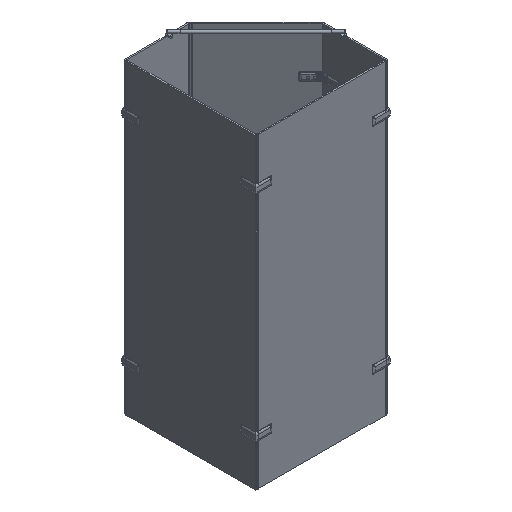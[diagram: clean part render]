
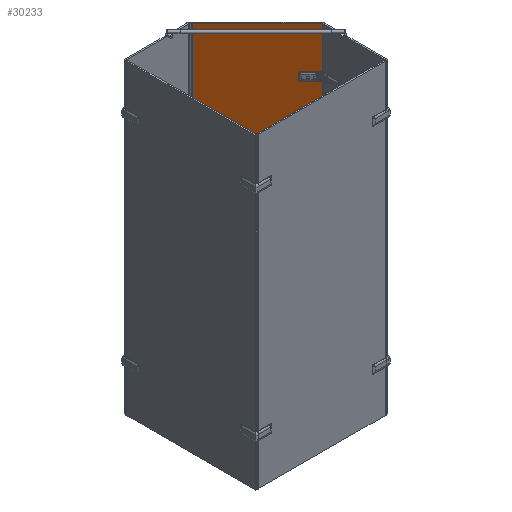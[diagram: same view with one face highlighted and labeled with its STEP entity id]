
A CAD part, isometric view. The second image highlights one B-rep face of the part: STEP entity #30233.
In plain terms, the highlighted planar face has unit normal (-0.707, -0.707, 0).
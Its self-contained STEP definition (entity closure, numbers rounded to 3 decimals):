
#1471=LINE($,#58121,#4029);
#2200=LINE($,#61485,#4758);
#2692=LINE($,#68003,#5250);
#2809=LINE($,#68351,#5367);
#2840=LINE($,#68446,#5398);
#3190=LINE($,#69565,#5748);
#3213=LINE($,#69809,#5771);
#3224=LINE($,#69856,#5782);
#3225=LINE($,#69861,#5783);
#3226=LINE($,#69864,#5784);
#3227=LINE($,#69868,#5785);
#3228=LINE($,#69871,#5786);
#4029=VECTOR($,#35059,1362.);
#4758=VECTOR($,#37078,281.);
#5250=VECTOR($,#38658,597.263);
#5367=VECTOR($,#38995,1980.);
#5398=VECTOR($,#39066,597.263);
#5748=VECTOR($,#39884,31.271);
#5771=VECTOR($,#39953,261.);
#5782=VECTOR($,#39988,31.271);
#5783=VECTOR($,#39993,18.);
#5784=VECTOR($,#39996,31.271);
#5785=VECTOR($,#39999,18.);
#5786=VECTOR($,#40002,31.271);
#6821=PLANE($,#32781);
#7249=FACE_BOUND($,#10453,.T.);
#7250=FACE_BOUND($,#10454,.T.);
#7251=FACE_BOUND($,#10455,.T.);
#10453=EDGE_LOOP($,(#25646));
#10454=EDGE_LOOP($,(#25647));
#10455=EDGE_LOOP($,(#25648,#25649,#25650,#25651,#25652,#25653,#25654,#25655,
#25656,#25657,#25658,#25659,#25660,#25661,#25662,#25663));
#10969=CIRCLE($,#30998,6.5);
#11220=CIRCLE($,#31640,6.5);
#11564=CIRCLE($,#32782,10.);
#11565=CIRCLE($,#32783,10.);
#11566=CIRCLE($,#32784,10.);
#11567=CIRCLE($,#32785,10.);
#12175=VERTEX_POINT($,#57175);
#12360=VERTEX_POINT($,#58119);
#12361=VERTEX_POINT($,#58120);
#12878=VERTEX_POINT($,#60529);
#13066=VERTEX_POINT($,#61482);
#13067=VERTEX_POINT($,#61484);
#13677=VERTEX_POINT($,#68001);
#13762=VERTEX_POINT($,#68338);
#13784=VERTEX_POINT($,#68435);
#14036=VERTEX_POINT($,#69563);
#14075=VERTEX_POINT($,#69807);
#14079=VERTEX_POINT($,#69854);
#14080=VERTEX_POINT($,#69858);
#14081=VERTEX_POINT($,#69860);
#14082=VERTEX_POINT($,#69862);
#14083=VERTEX_POINT($,#69865);
#14084=VERTEX_POINT($,#69867);
#14085=VERTEX_POINT($,#69869);
#15042=EDGE_CURVE($,#12175,#12175,#10969,.T.);
#15336=EDGE_CURVE($,#12360,#12361,#1471,.T.);
#16128=EDGE_CURVE($,#12878,#12878,#11220,.T.);
#16427=EDGE_CURVE($,#13066,#13067,#2200,.T.);
#17332=EDGE_CURVE($,#13066,#13677,#2692,.T.);
#17491=EDGE_CURVE($,#13677,#13762,#2809,.T.);
#17529=EDGE_CURVE($,#13784,#13762,#2840,.T.);
#17958=EDGE_CURVE($,#14036,#12360,#3190,.T.);
#18010=EDGE_CURVE($,#14075,#13784,#3213,.T.);
#18026=EDGE_CURVE($,#14079,#14075,#3224,.T.);
#18027=EDGE_CURVE($,#14079,#14080,#11564,.T.);
#18028=EDGE_CURVE($,#14081,#14080,#3225,.T.);
#18029=EDGE_CURVE($,#14081,#14082,#11565,.T.);
#18030=EDGE_CURVE($,#12361,#14082,#3226,.T.);
#18031=EDGE_CURVE($,#14036,#14083,#11566,.T.);
#18032=EDGE_CURVE($,#14084,#14083,#3227,.T.);
#18033=EDGE_CURVE($,#14084,#14085,#11567,.T.);
#18034=EDGE_CURVE($,#13067,#14085,#3228,.T.);
#25646=ORIENTED_EDGE($,*,*,#15042,.F.);
#25647=ORIENTED_EDGE($,*,*,#16128,.F.);
#25648=ORIENTED_EDGE($,*,*,#17491,.T.);
#25649=ORIENTED_EDGE($,*,*,#17529,.F.);
#25650=ORIENTED_EDGE($,*,*,#18010,.F.);
#25651=ORIENTED_EDGE($,*,*,#18026,.F.);
#25652=ORIENTED_EDGE($,*,*,#18027,.T.);
#25653=ORIENTED_EDGE($,*,*,#18028,.F.);
#25654=ORIENTED_EDGE($,*,*,#18029,.T.);
#25655=ORIENTED_EDGE($,*,*,#18030,.F.);
#25656=ORIENTED_EDGE($,*,*,#15336,.F.);
#25657=ORIENTED_EDGE($,*,*,#17958,.F.);
#25658=ORIENTED_EDGE($,*,*,#18031,.T.);
#25659=ORIENTED_EDGE($,*,*,#18032,.F.);
#25660=ORIENTED_EDGE($,*,*,#18033,.T.);
#25661=ORIENTED_EDGE($,*,*,#18034,.F.);
#25662=ORIENTED_EDGE($,*,*,#16427,.F.);
#25663=ORIENTED_EDGE($,*,*,#17332,.T.);
#30233=ADVANCED_FACE($,(#7249,#7250,#7251),#6821,.F.);
#30998=AXIS2_PLACEMENT_3D($,#57176,#34485,#34486);
#31640=AXIS2_PLACEMENT_3D($,#60530,#36494,#36495);
#32781=AXIS2_PLACEMENT_3D($,#69857,#39989,#39990);
#32782=AXIS2_PLACEMENT_3D($,#69859,#39991,#39992);
#32783=AXIS2_PLACEMENT_3D($,#69863,#39994,#39995);
#32784=AXIS2_PLACEMENT_3D($,#69866,#39997,#39998);
#32785=AXIS2_PLACEMENT_3D($,#69870,#40000,#40001);
#34485=DIRECTION('center_axis',(-0.707,-0.707,0.));
#34486=DIRECTION('ref_axis',(0.707,-0.707,0.));
#35059=DIRECTION($,(0.,0.,-1.));
#36494=DIRECTION('center_axis',(-0.707,-0.707,0.));
#36495=DIRECTION('ref_axis',(0.707,-0.707,0.));
#37078=DIRECTION($,(0.,0.,-1.));
#38658=DIRECTION($,(-0.707,0.707,0.));
#38995=DIRECTION($,(0.,0.,-1.));
#39066=DIRECTION($,(-0.707,0.707,0.));
#39884=DIRECTION($,(0.707,-0.707,0.));
#39953=DIRECTION($,(0.,0.,-1.));
#39988=DIRECTION($,(0.707,-0.707,0.));
#39989=DIRECTION('center_axis',(0.707,0.707,0.));
#39990=DIRECTION('ref_axis',(-0.707,0.707,0.));
#39991=DIRECTION('center_axis',(0.707,0.707,0.));
#39992=DIRECTION('ref_axis',(-0.5,0.5,-0.707));
#39993=DIRECTION($,(0.,0.,-1.));
#39994=DIRECTION('center_axis',(0.707,0.707,0.));
#39995=DIRECTION('ref_axis',(-0.5,0.5,0.707));
#39996=DIRECTION($,(-0.707,0.707,0.));
#39997=DIRECTION('center_axis',(0.707,0.707,0.));
#39998=DIRECTION('ref_axis',(-0.5,0.5,-0.707));
#39999=DIRECTION($,(0.,0.,-1.));
#40000=DIRECTION('center_axis',(0.707,0.707,0.));
#40001=DIRECTION('ref_axis',(-0.5,0.5,0.707));
#40002=DIRECTION($,(-0.707,0.707,0.));
#57175=CARTESIAN_POINT('',(1337.563,-586.492,-214.056));
#57176=CARTESIAN_POINT('Origin',(1342.159,-591.088,-214.056));
#58119=CARTESIAN_POINT('',(1387.606,-636.535,1166.944));
#58120=CARTESIAN_POINT('',(1387.606,-636.535,-195.056));
#58121=CARTESIAN_POINT($,(1387.606,-636.535,-204.056));
#60529=CARTESIAN_POINT('',(1337.563,-586.492,1185.944));
#60530=CARTESIAN_POINT('Origin',(1342.159,-591.088,1185.944));
#61482=CARTESIAN_POINT('',(1387.606,-636.535,1485.944));
#61484=CARTESIAN_POINT('',(1387.606,-636.535,1204.944));
#61485=CARTESIAN_POINT($,(1387.606,-636.535,1195.944));
#68001=CARTESIAN_POINT('',(965.277,-214.206,1485.944));
#68003=CARTESIAN_POINT($,(1388.121,-637.05,1485.944));
#68338=CARTESIAN_POINT('',(965.277,-214.206,-494.056));
#68351=CARTESIAN_POINT($,(965.277,-214.206,1485.944));
#68435=CARTESIAN_POINT('',(1387.606,-636.535,-494.056));
#68446=CARTESIAN_POINT($,(1388.121,-637.05,-494.056));
#69563=CARTESIAN_POINT('',(1365.494,-614.423,1166.944));
#69565=CARTESIAN_POINT($,(1373.272,-622.201,1166.944));
#69807=CARTESIAN_POINT('',(1387.606,-636.535,-233.056));
#69809=CARTESIAN_POINT($,(1387.606,-636.535,-224.056));
#69854=CARTESIAN_POINT('',(1365.494,-614.423,-233.056));
#69856=CARTESIAN_POINT($,(1373.272,-622.201,-233.056));
#69857=CARTESIAN_POINT('Origin',(1388.121,-637.05,-494.056));
#69858=CARTESIAN_POINT('',(1358.423,-607.352,-223.056));
#69859=CARTESIAN_POINT('Origin',(1365.494,-614.423,-223.056));
#69860=CARTESIAN_POINT('',(1358.423,-607.352,-205.056));
#69861=CARTESIAN_POINT($,(1358.423,-607.352,-344.556));
#69862=CARTESIAN_POINT('',(1365.494,-614.423,-195.056));
#69863=CARTESIAN_POINT('Origin',(1365.494,-614.423,-205.056));
#69864=CARTESIAN_POINT($,(1388.121,-637.05,-195.056));
#69865=CARTESIAN_POINT('',(1358.423,-607.352,1176.944));
#69866=CARTESIAN_POINT('Origin',(1365.494,-614.423,1176.944));
#69867=CARTESIAN_POINT('',(1358.423,-607.352,1194.944));
#69868=CARTESIAN_POINT($,(1358.423,-607.352,355.444));
#69869=CARTESIAN_POINT('',(1365.494,-614.423,1204.944));
#69870=CARTESIAN_POINT('Origin',(1365.494,-614.423,1194.944));
#69871=CARTESIAN_POINT($,(1388.121,-637.05,1204.944));
